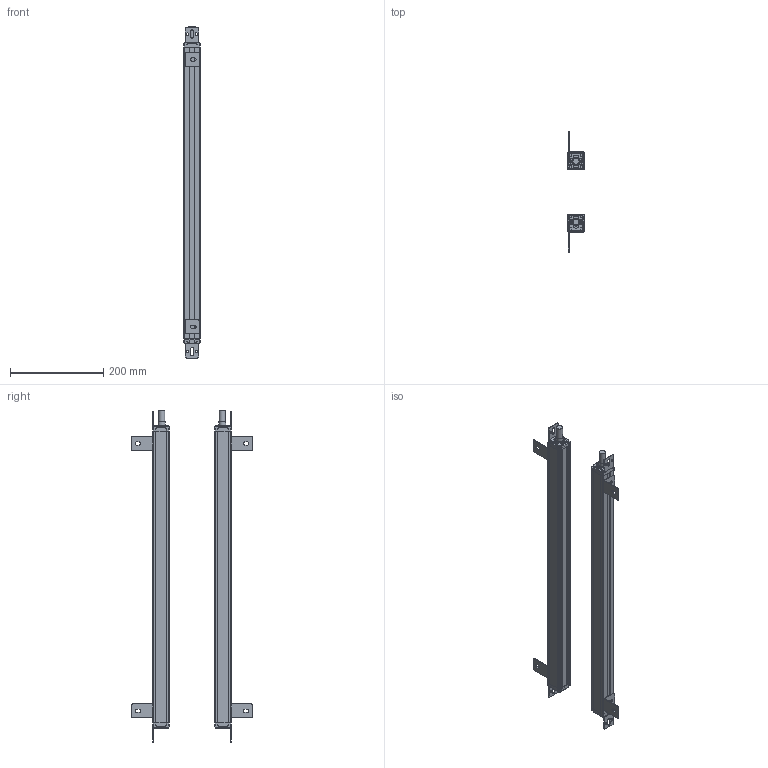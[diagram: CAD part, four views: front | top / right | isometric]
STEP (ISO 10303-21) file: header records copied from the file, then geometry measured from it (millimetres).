
FILE_DESCRIPTION(/* description */ (''),/* implementation_level */ '2;1');
FILE_NAME(/* name */ '6010_35X35_stp_stp.stp',/* time_stamp */ '2023-09-18T17:32:32+08:00',/* author */ (''),/* organization */ (''),/* preprocessor_version */ 'ST-DEVELOPER v16.7',/* originating_system */ 'SIEMENS PLM Software NX 12.0',/* authorisation */ '');
FILE_SCHEMA (('AP203_CONFIGURATION_CONTROLLED_3D_DESIGN_OF_MECHANICAL_PARTS_AND_ASSEMBLIES_MIM_LF { 1 0 10303 403 2 1 2}'));
Length unit declared in the file: millimetre
Products named in the file (1): 0420_35X35_stp_stp
Bounding box: 35.41 x 258.01 x 711.6 mm (x, y, z)
Volume: 648369.9 mm3; surface area: 493089.8 mm2
Topology: 28 solids, 28 shells, 1182 faces, 3360 edges, 2260 vertices
Faces by surface type: plane 658, cylinder 464, cone 60
Full cylindrical faces by diameter (mm): 3.2 x8, 6 x24, 13 x2, 14.4 x2, 15 x2
Entity records: 39055 total; most frequent: DIRECTION 6832, CARTESIAN_POINT 6745, ORIENTED_EDGE 6612, EDGE_CURVE 3306, AXIS2_PLACEMENT_3D 2347, VERTEX_POINT 2244, LINE 2138, VECTOR 2138
